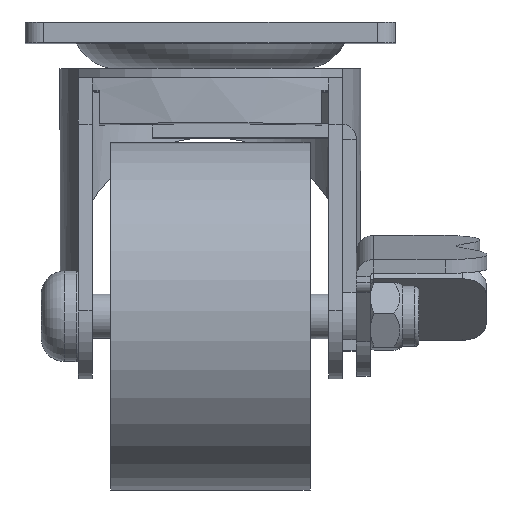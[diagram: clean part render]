
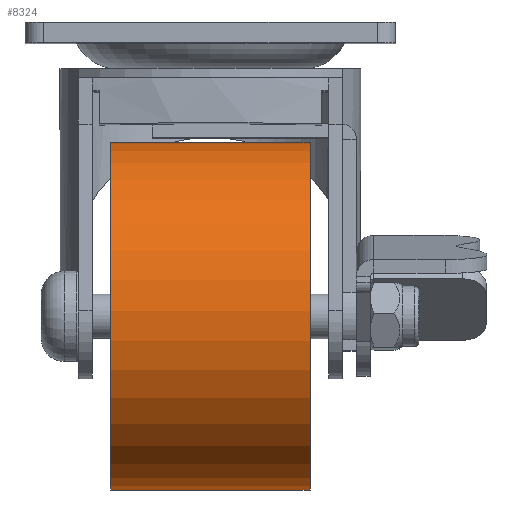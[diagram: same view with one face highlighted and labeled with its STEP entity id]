
A CAD part, top view. The second image highlights one B-rep face of the part: STEP entity #8324.
In plain terms, the highlighted cylindrical face has radius 37.5 mm (diameter 75 mm), a full revolution.
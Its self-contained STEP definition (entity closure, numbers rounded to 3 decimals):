
#72 = DIRECTION ( 'NONE',  ( 0., -0.472, 0.882 ) ) ;
#158 = CIRCLE ( 'NONE', #4579, 37.5 ) ;
#351 = CARTESIAN_POINT ( 'NONE',  ( -21.5, -71.205, 65.157 ) ) ;
#1616 = CARTESIAN_POINT ( 'NONE',  ( 21.5, -53.5, 32.1 ) ) ;
#1873 = DIRECTION ( 'NONE',  ( 1., 0., 0. ) ) ;
#2534 = DIRECTION ( 'NONE',  ( 0., -0.472, 0.882 ) ) ;
#2616 = ORIENTED_EDGE ( 'NONE', *, *, #4261, .T. ) ;
#3249 = EDGE_CURVE ( 'NONE', #5784, #5784, #9008, .T. ) ;
#3856 = EDGE_LOOP ( 'NONE', ( #2616 ) ) ;
#4128 = CYLINDRICAL_SURFACE ( 'NONE', #4753, 37.5 ) ;
#4175 = CARTESIAN_POINT ( 'NONE',  ( -21.5, -53.5, 32.1 ) ) ;
#4261 = EDGE_CURVE ( 'NONE', #5736, #5736, #158, .T. ) ;
#4579 = AXIS2_PLACEMENT_3D ( 'NONE', #1616, #7292, #2534 ) ;
#4753 = AXIS2_PLACEMENT_3D ( 'NONE', #4175, #1873, #5004 ) ;
#4795 = DIRECTION ( 'NONE',  ( -1., 0., 0. ) ) ;
#4903 = FACE_OUTER_BOUND ( 'NONE', #6365, .T. ) ;
#5004 = DIRECTION ( 'NONE',  ( 0., 0.472, -0.882 ) ) ;
#5736 = VERTEX_POINT ( 'NONE', #7160 ) ;
#5784 = VERTEX_POINT ( 'NONE', #351 ) ;
#6365 = EDGE_LOOP ( 'NONE', ( #7674 ) ) ;
#7160 = CARTESIAN_POINT ( 'NONE',  ( 21.5, -71.205, 65.157 ) ) ;
#7292 = DIRECTION ( 'NONE',  ( -1., 0., 0. ) ) ;
#7674 = ORIENTED_EDGE ( 'NONE', *, *, #3249, .F. ) ;
#7867 = AXIS2_PLACEMENT_3D ( 'NONE', #8527, #4795, #72 ) ;
#8111 = FACE_OUTER_BOUND ( 'NONE', #3856, .T. ) ;
#8324 = ADVANCED_FACE ( 'NONE', ( #4903, #8111 ), #4128, .T. ) ;
#8527 = CARTESIAN_POINT ( 'NONE',  ( -21.5, -53.5, 32.1 ) ) ;
#9008 = CIRCLE ( 'NONE', #7867, 37.5 ) ;
